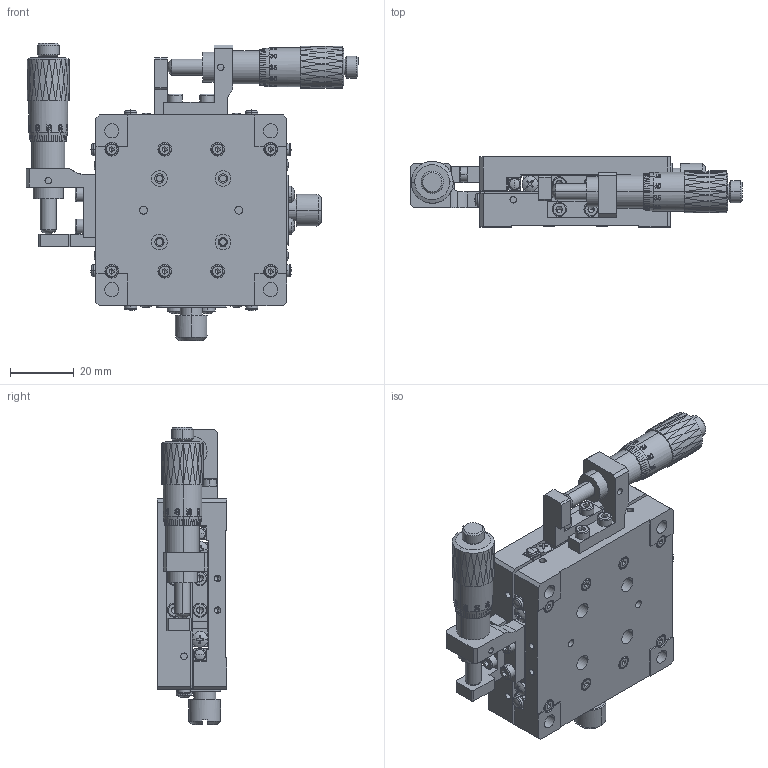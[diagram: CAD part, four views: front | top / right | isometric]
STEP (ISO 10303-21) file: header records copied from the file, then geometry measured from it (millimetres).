
FILE_DESCRIPTION (( 'STEP AP203' ), '1' );
FILE_NAME ('BPBB60.STEP', '2024-01-08T09:27:50', ( 'China' ), ( 'Microsoft' ), 'SwSTEP 2.0', 'SolidWorks 2024', '' );
FILE_SCHEMA (( 'CONFIG_CONTROL_DESIGN' ));
Products named in the file (1): BPBB60
Bounding box: 104.5 x 22 x 93.5 mm (x, y, z)
Volume: 80362 mm3; surface area: 57404.6 mm2
Topology: 57 solids, 57 shells, 3309 faces, 8256 edges, 5254 vertices
Faces by surface type: plane 1104, cylinder 871, bspline 790, cone 434, torus 82, sphere 28
Entity records: 161747 total; most frequent: CARTESIAN_POINT 90068, ORIENTED_EDGE 16240, DIRECTION 12226, EDGE_CURVE 8120, VERTEX_POINT 5254, AXIS2_PLACEMENT_3D 4708, EDGE_LOOP 3824, FACE_OUTER_BOUND 3309
